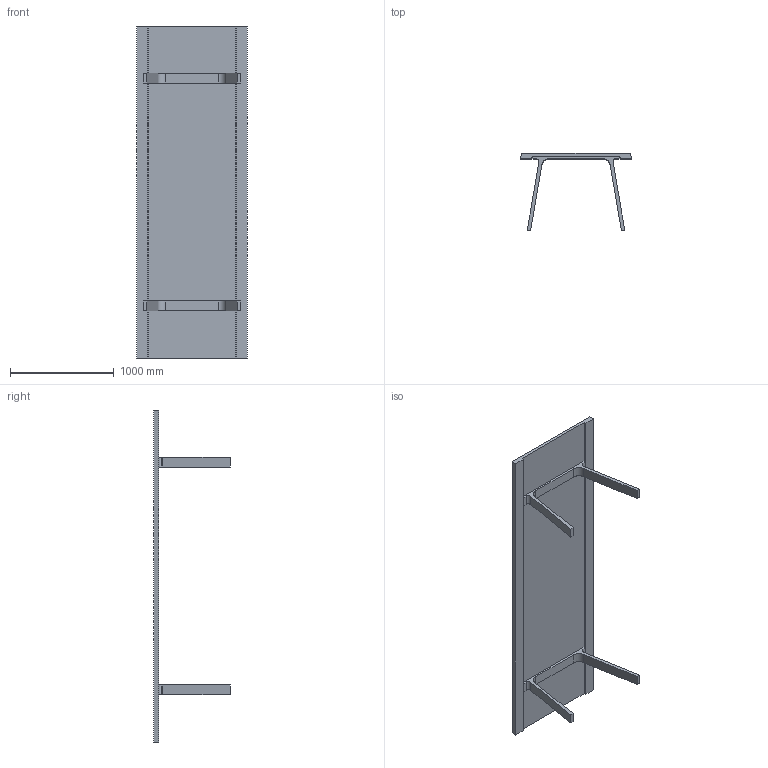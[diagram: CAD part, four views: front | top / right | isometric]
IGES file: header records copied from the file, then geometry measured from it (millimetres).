
Start section: SolidWorks IGES file using analytic representation for surfaces
Global section: file name: G:\Product Info\Doble\3D\solidworks\Doble 320x105x74-poten buiten.IGS; native system: SolidWorks 2008; preprocessor: SolidWorks 2008; author: remko; date: 080826.135413; units: millimetre
Bounding box: 1067.63 x 740 x 3200 mm (x, y, z)
Surface area: 8222220.9 mm2 (no closed solid volume)
Topology: 0 solids, 0 shells, 46 faces, 356 edges, 356 vertices
Faces by surface type: bspline 36, revolution 10
